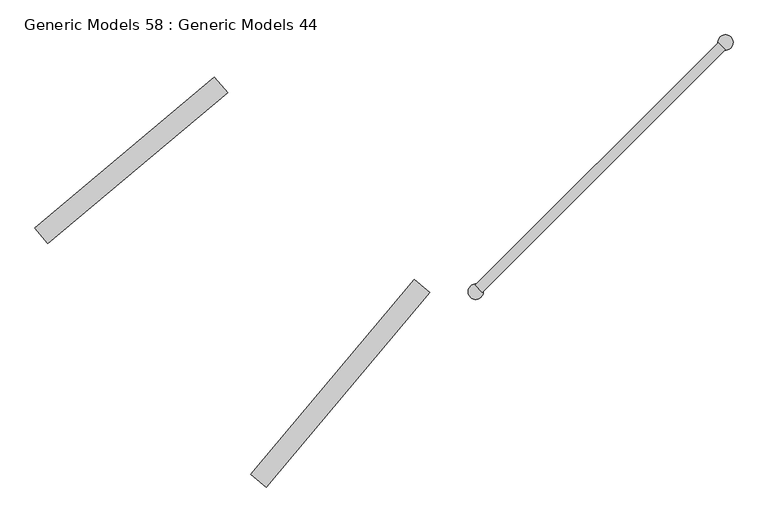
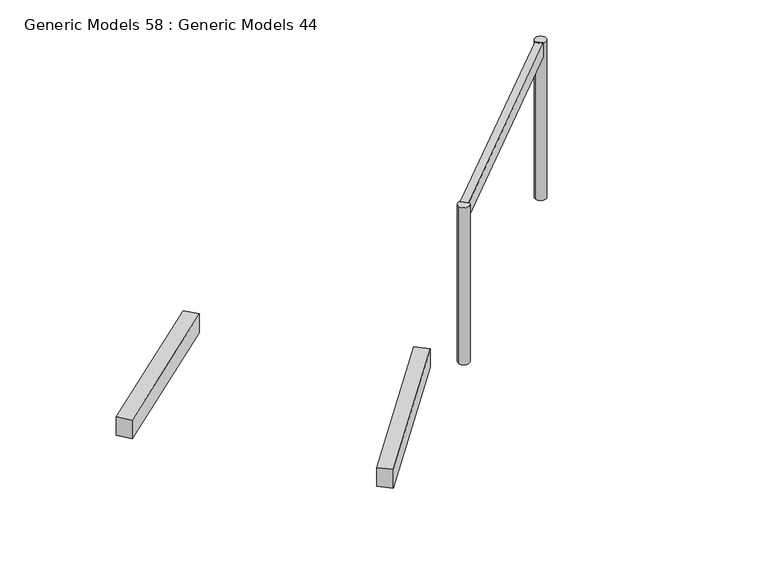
"""IFC4 building model written with IfcOpenShell, lengths in millimetres: proxy geometry, Generic Models 58 : Generic Models 44."""

from ifc_helpers import new_model, si_unit, point, frame, frame_2d, origin, place, context, project, spatial, polyline, circle_curve, trimmed, segment, composite_curve, outline, extrude, source, transform, mapped, element, save


def generic_models_58_generic_models_44_b7fe4dcd(model_context):
    return source(origin(), model_context, "Body", "SweptSolid", [
        extrude(outline(polyline([(-56127.5607596, -35737.0994253), (-56280.7696482, -35608.5419033), (-54669.7422956, -33688.5942681), (-54516.533407, -33817.1517901), (-56127.5607596, -35737.0994253)])), frame((0.0, 0.0, 42770.0), z_axis=(0.0, 0.0, 1.0), x_axis=(1.0, 0.0, 0.0)), (0.0, 0.0, 1.0), 268.5053554),
        extrude(outline(polyline([(-58276.5876012, -33333.9533005), (-58405.1451231, -33180.7444118), (-56636.7774487, -31696.9077484), (-56508.2199267, -31850.116637), (-58276.5876012, -33333.9533005)])), frame((0.0, 0.0, 42770.0), z_axis=(0.0, 0.0, 1.0), x_axis=(1.0, 0.0, 0.0)), (0.0, 0.0, 1.0), 268.5053554),
        extrude(outline(polyline([(-53998.7510818, -33817.7796088), (-54069.4617599, -33747.0689307), (-51676.7467224, -31354.3538932), (-51606.0360443, -31425.0645713), (-53998.7510818, -33817.7796088)])), frame((0.0, 0.0, 44746.1646464), z_axis=(0.0, 0.0, 1.0), x_axis=(1.0, 0.0, 0.0)), (0.0, 0.0, 1.0), 195.4634247),
        extrude(outline(composite_curve([segment(trimmed(circle_curve(frame_2d((-54063.8182833, -33810.9678051)), 75.0), [point((-54138.8182833, -33810.9678051))], [point((-53988.8182833, -33810.9678051))], False, "CARTESIAN"), True, "CONTINUOUS"), segment(trimmed(circle_curve(frame_2d((-54063.8182833, -33810.9678051)), 75.0), [point((-53988.8182833, -33810.9678051))], [point((-54138.8182833, -33810.9678051))], False, "CARTESIAN"), True, "CONTINUOUS")], self_intersect=False)), frame((0.0, 0.0, 42695.9057084), z_axis=(0.0, 0.0, 1.0), x_axis=(1.0, 0.0, 0.0)), (0.0, 0.0, 1.0), 2245.7223627),
        extrude(outline(composite_curve([segment(trimmed(circle_curve(frame_2d((-51603.629554, -31353.5552475)), 75.0), [point((-51678.629554, -31353.5552475))], [point((-51528.629554, -31353.5552475))], False, "CARTESIAN"), True, "CONTINUOUS"), segment(trimmed(circle_curve(frame_2d((-51603.629554, -31353.5552475)), 75.0), [point((-51528.629554, -31353.5552475))], [point((-51678.629554, -31353.5552475))], False, "CARTESIAN"), True, "CONTINUOUS")], self_intersect=False)), frame((0.0, 0.0, 42695.9057084), z_axis=(0.0, 0.0, 1.0), x_axis=(1.0, 0.0, 0.0)), (0.0, 0.0, 1.0), 2245.7223627),
    ])


if __name__ == "__main__":
    model = new_model("IFC4")
    model_context = context("Model", 3, world=origin())
    ifc_project = project(units=[si_unit("LENGTHUNIT", "METRE", prefix="MILLI")], contexts=[model_context])
    site = spatial("IfcSite", under=ifc_project)
    building = spatial("IfcBuilding", under=site)
    placement = place(None, origin())
    generic_models_58_generic_models_44_shape = generic_models_58_generic_models_44_b7fe4dcd(model_context)
    element("IfcBuildingElementProxy", 1, Name="Generic Models 58 : Generic Models 44", ObjectType="Generic Models 58 : Generic Models 44", at=placement, inside=building, context=model_context, shape_type="MappedRepresentation", body=[
        mapped(generic_models_58_generic_models_44_shape, transform((0.0, 0.0, 0.0), x_axis=(1.0, 0.0, 0.0), y_axis=(0.0, 1.0, 0.0), z_axis=(0.0, 0.0, 1.0))),
    ])
    save(model, "model.ifc")
